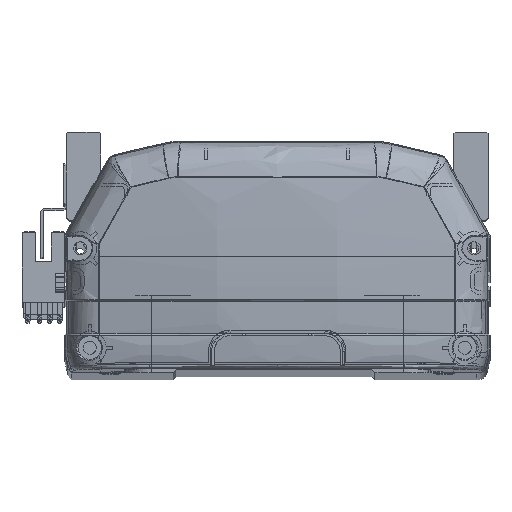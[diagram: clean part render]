
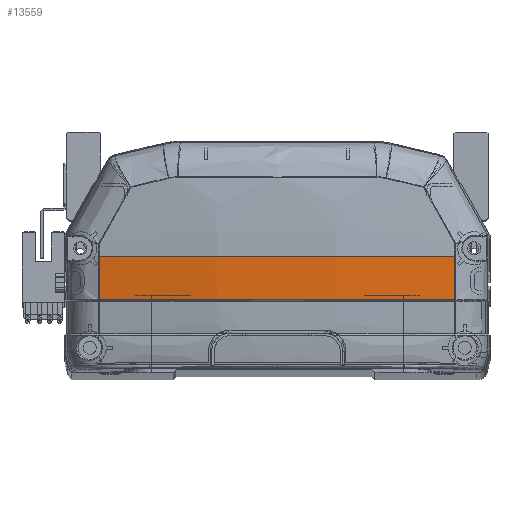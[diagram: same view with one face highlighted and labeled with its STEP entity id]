
A CAD part, top view. The second image highlights one B-rep face of the part: STEP entity #13559.
In plain terms, the highlighted free-form (B-spline) face has degree [3, 3] with [4, 4] control points.
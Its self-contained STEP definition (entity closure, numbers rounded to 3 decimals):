
#318 = CARTESIAN_POINT ( 'NONE',  ( -56.661, 22.225, -4.818 ) ) ;
#353 = CARTESIAN_POINT ( 'NONE',  ( 56.647, 35.969, -5.158 ) ) ;
#509 = EDGE_LOOP ( 'NONE', ( #7324, #21973, #29250, #7561, #15153 ) ) ;
#854 = CARTESIAN_POINT ( 'NONE',  ( 56.661, 22.225, -4.818 ) ) ;
#1307 = CARTESIAN_POINT ( 'NONE',  ( -19.295, 31.274, -11.535 ) ) ;
#2153 = VERTEX_POINT ( 'NONE', #854 ) ;
#3158 = B_SPLINE_CURVE_WITH_KNOTS ( 'NONE', 3,
 ( #13511, #43321, #47069, #28816, #32533, #6310, #6475, #28972, #32702, #10382, #36463, #10237, #40031 ),
 .UNSPECIFIED., .F., .F.,
 ( 4, 2, 2, 1, 2, 2, 4 ),
 ( 0., 0.25, 0.375, 0.438, 0.469, 0.5, 1. ),
 .UNSPECIFIED. ) ;
#4352 = CARTESIAN_POINT ( 'NONE',  ( 56.661, 22.225, -4.818 ) ) ;
#4391 = EDGE_CURVE ( 'NONE', #2153, #36292, #38056, .T. ) ;
#4424 = AXIS2_PLACEMENT_3D ( 'NONE', #46855, #28260, #47166 ) ;
#4779 = CARTESIAN_POINT ( 'NONE',  ( 19.295, 36., -11.535 ) ) ;
#5767 = VERTEX_POINT ( 'NONE', #13960 ) ;
#6310 = CARTESIAN_POINT ( 'NONE',  ( 11.954, 22.225, -9.367 ) ) ;
#6475 = CARTESIAN_POINT ( 'NONE',  ( 8.363, 22.225, -9.48 ) ) ;
#7324 = ORIENTED_EDGE ( 'NONE', *, *, #22821, .F. ) ;
#7561 = ORIENTED_EDGE ( 'NONE', *, *, #47670, .T. ) ;
#7744 = CARTESIAN_POINT ( 'NONE',  ( -56.647, 31.405, -5.158 ) ) ;
#8685 = CARTESIAN_POINT ( 'NONE',  ( -57.335, 31.38, -5.042 ) ) ;
#10237 = CARTESIAN_POINT ( 'NONE',  ( -38.235, 22.225, -7.93 ) ) ;
#10382 = CARTESIAN_POINT ( 'NONE',  ( 1.152, 22.225, -9.568 ) ) ;
#12273 = CARTESIAN_POINT ( 'NONE',  ( -57.335, 26.762, -4.928 ) ) ;
#12457 = CARTESIAN_POINT ( 'NONE',  ( 57.335, 31.38, -5.042 ) ) ;
#12613 = CARTESIAN_POINT ( 'NONE',  ( 57.335, 36., -5.042 ) ) ;
#13511 = CARTESIAN_POINT ( 'NONE',  ( 56.661, 22.225, -4.818 ) ) ;
#13559 = ADVANCED_FACE ( 'NONE', ( #34260 ), #47491, .T. ) ;
#13955 = CARTESIAN_POINT ( 'NONE',  ( 56.647, 35.969, -5.158 ) ) ;
#13960 = CARTESIAN_POINT ( 'NONE',  ( 56.647, 36., -5.158 ) ) ;
#15070 = CARTESIAN_POINT ( 'NONE',  ( -56.652, 26.814, -5.045 ) ) ;
#15153 = ORIENTED_EDGE ( 'NONE', *, *, #29359, .F. ) ;
#17195 = AXIS2_PLACEMENT_3D ( 'NONE', #37005, #40750, #48272 ) ;
#18816 = CARTESIAN_POINT ( 'NONE',  ( -56.647, 36., -5.158 ) ) ;
#19926 = CARTESIAN_POINT ( 'NONE',  ( -19.295, 21.828, -11.186 ) ) ;
#21973 = ORIENTED_EDGE ( 'NONE', *, *, #45369, .F. ) ;
#22821 = EDGE_CURVE ( 'NONE', #5767, #47160, #41363, .T. ) ;
#23181 = CARTESIAN_POINT ( 'NONE',  ( 57.335, 22.148, -4.7 ) ) ;
#23347 = CARTESIAN_POINT ( 'NONE',  ( 19.295, 21.828, -11.186 ) ) ;
#26450 = CIRCLE ( 'NONE', #17195, 6395.966 ) ;
#26941 = CARTESIAN_POINT ( 'NONE',  ( 19.295, 31.274, -11.535 ) ) ;
#27453 = B_SPLINE_CURVE_WITH_KNOTS ( 'NONE', 3,
 ( #18816, #7744, #15070, #318 ),
 .UNSPECIFIED., .F., .F.,
 ( 4, 4 ),
 ( 0., 1. ),
 .UNSPECIFIED. ) ;
#28260 = DIRECTION ( 'NONE',  ( 0., 1., 0. ) ) ;
#28532 = CARTESIAN_POINT ( 'NONE',  ( -56.661, 22.225, -4.818 ) ) ;
#28816 = CARTESIAN_POINT ( 'NONE',  ( 23.877, 22.225, -8.763 ) ) ;
#28872 = CARTESIAN_POINT ( 'NONE',  ( -56.647, 36., -5.158 ) ) ;
#28972 = CARTESIAN_POINT ( 'NONE',  ( 4.761, 22.225, -9.537 ) ) ;
#29250 = ORIENTED_EDGE ( 'NONE', *, *, #4391, .F. ) ;
#29359 = EDGE_CURVE ( 'NONE', #47160, #32231, #27453, .T. ) ;
#30826 = CARTESIAN_POINT ( 'NONE',  ( -19.295, 36., -11.535 ) ) ;
#32231 = VERTEX_POINT ( 'NONE', #28532 ) ;
#32533 = CARTESIAN_POINT ( 'NONE',  ( 19.121, 22.225, -9.064 ) ) ;
#32702 = CARTESIAN_POINT ( 'NONE',  ( 2.357, 22.225, -9.562 ) ) ;
#34260 = FACE_OUTER_BOUND ( 'NONE', #509, .T. ) ;
#34266 = CARTESIAN_POINT ( 'NONE',  ( -57.335, 22.148, -4.7 ) ) ;
#34435 = CARTESIAN_POINT ( 'NONE',  ( 19.295, 26.549, -11.419 ) ) ;
#36292 = VERTEX_POINT ( 'NONE', #13955 ) ;
#36463 = CARTESIAN_POINT ( 'NONE',  ( -19.28, 22.225, -9.565 ) ) ;
#37005 = CARTESIAN_POINT ( 'NONE',  ( 6452.613, 35.969, -5.158 ) ) ;
#38056 = B_SPLINE_CURVE_WITH_KNOTS ( 'NONE', 3,
 ( #4352, #41166, #48208, #353 ),
 .UNSPECIFIED., .F., .F.,
 ( 4, 4 ),
 ( 0., 1. ),
 .UNSPECIFIED. ) ;
#38306 = CARTESIAN_POINT ( 'NONE',  ( 57.335, 26.762, -4.928 ) ) ;
#38649 = CARTESIAN_POINT ( 'NONE',  ( -57.335, 36., -5.042 ) ) ;
#40031 = CARTESIAN_POINT ( 'NONE',  ( -56.661, 22.225, -4.818 ) ) ;
#40750 = DIRECTION ( 'NONE',  ( 0., 0., -1. ) ) ;
#41166 = CARTESIAN_POINT ( 'NONE',  ( 56.652, 26.806, -5.044 ) ) ;
#41363 = CIRCLE ( 'NONE', #4424, 340.733 ) ;
#43321 = CARTESIAN_POINT ( 'NONE',  ( 47.432, 22.225, -6.377 ) ) ;
#45353 = CARTESIAN_POINT ( 'NONE',  ( -19.295, 26.549, -11.419 ) ) ;
#45369 = EDGE_CURVE ( 'NONE', #36292, #5767, #26450, .T. ) ;
#46855 = CARTESIAN_POINT ( 'NONE',  ( 0., 36., 330.833 ) ) ;
#47069 = CARTESIAN_POINT ( 'NONE',  ( 38.071, 22.225, -7.566 ) ) ;
#47160 = VERTEX_POINT ( 'NONE', #28872 ) ;
#47166 = DIRECTION ( 'NONE',  ( 0., 0., -1. ) ) ;
#47491 =( BOUNDED_SURFACE ( )  B_SPLINE_SURFACE ( 3, 3, ( 
 ( #23181, #38306, #12457, #12613 ),
 ( #23347, #34435, #26941, #4779 ),
 ( #19926, #45353, #1307, #30826 ),
 ( #34266, #12273, #8685, #38649 ) ),
 .UNSPECIFIED., .F., .F., .F. ) 
 B_SPLINE_SURFACE_WITH_KNOTS ( ( 4, 4 ),
 ( 4, 4 ),
 ( 0., 1. ),
 ( 0., 1. ),
 .UNSPECIFIED. ) 
 GEOMETRIC_REPRESENTATION_ITEM ( )  RATIONAL_B_SPLINE_SURFACE ( (
 ( 1., 1., 1., 1.),
 ( 0.99, 0.99, 0.99, 0.99),
 ( 0.99, 0.99, 0.99, 0.99),
 ( 1., 1., 1., 1.) ) ) 
 REPRESENTATION_ITEM ( '' )  SURFACE ( )  );
#47670 = EDGE_CURVE ( 'NONE', #2153, #32231, #3158, .T. ) ;
#48208 = CARTESIAN_POINT ( 'NONE',  ( 56.647, 31.387, -5.158 ) ) ;
#48272 = DIRECTION ( 'NONE',  ( -1., 0., 0. ) ) ;
